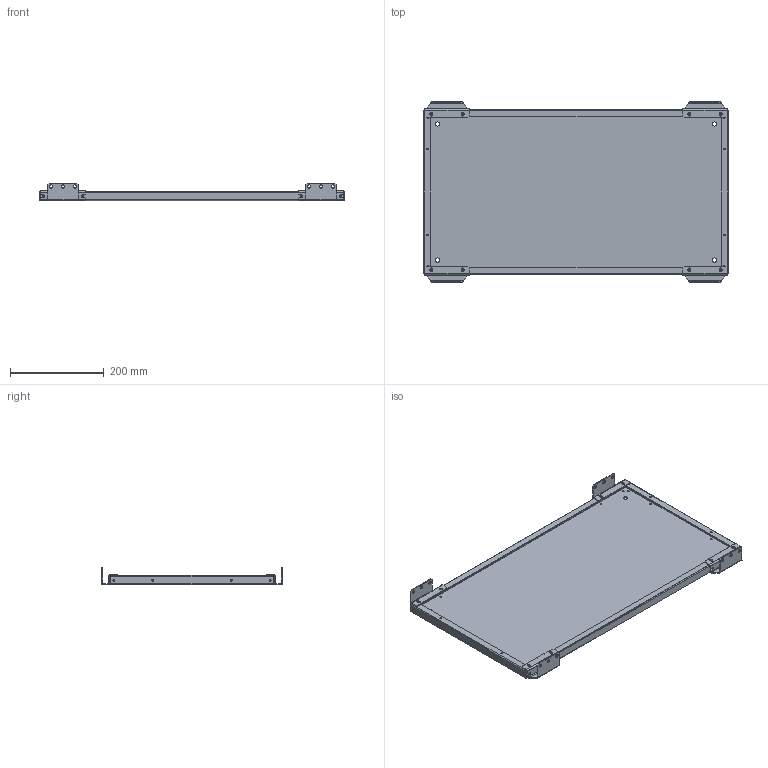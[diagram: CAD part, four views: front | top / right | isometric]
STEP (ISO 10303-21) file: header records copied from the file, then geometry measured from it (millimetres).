
FILE_DESCRIPTION (( 'STEP AP203' ), '1' );
FILE_NAME ('MP 65.35 M Ïàíåëü ìîíòàæíàÿ ñåêöèîííàÿ (ãîðèçîíòàëüíîå êðåïëåíèå).STEP', '2021-04-06T07:13:35', ( '' ), ( '' ), 'SwSTEP 2.0', 'SolidWorks 2018', '' );
FILE_SCHEMA (( 'CONFIG_CONTROL_DESIGN' ));
Length unit declared in the file: millimetre
Products named in the file (1): MP 65.35 M Ïàíåëü ìîíòàæíàÿ ñåêöèîííàÿ (ãîðèçîíòàëüíîå êðåïëåíèå)
Bounding box: 650 x 385 x 37.75 mm (x, y, z)
Volume: 624845.2 mm3; surface area: 633747.5 mm2
Topology: 5 solids, 5 shells, 388 faces, 1016 edges, 632 vertices
Faces by surface type: cylinder 196, plane 168, bspline 16, sphere 8
Entity records: 12713 total; most frequent: CARTESIAN_POINT 2749, DIRECTION 2050, ORIENTED_EDGE 2016, EDGE_CURVE 1008, AXIS2_PLACEMENT_3D 733, VERTEX_POINT 632, VECTOR 584, LINE 584
